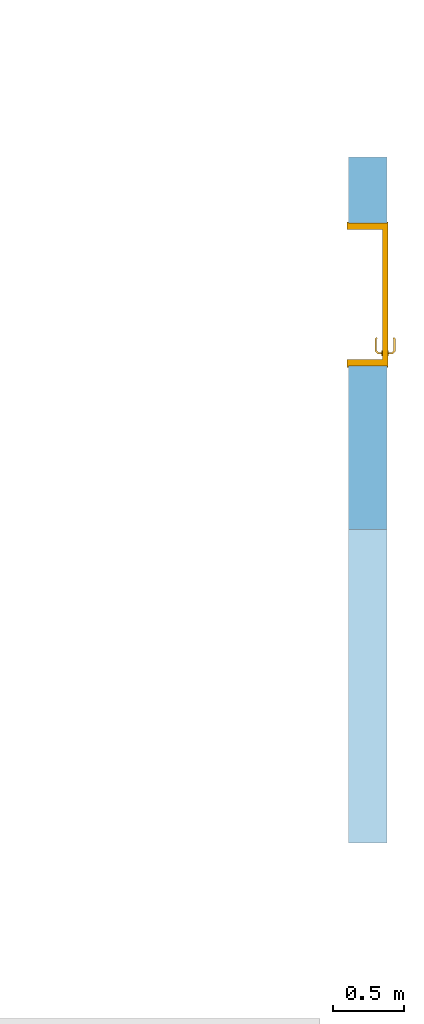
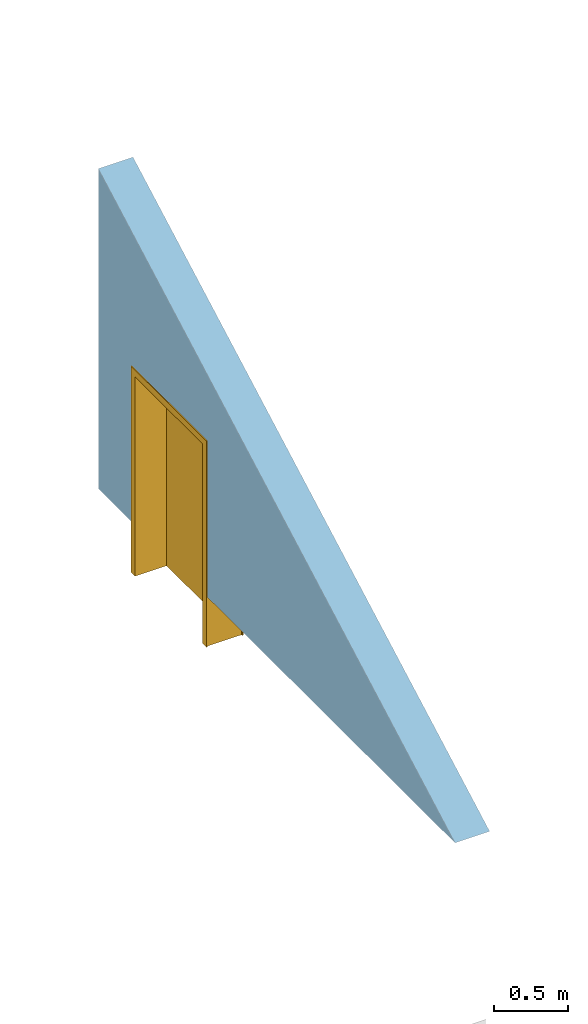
"""IFC2X3 building model written with IfcOpenShell, lengths in centimetres."""

from ifc_helpers import new_model, entity, si_unit, converted_unit, derived_unit, direction, frame, frame_2d, origin, place, context, subcontext, project, spatial, rectangle, extrude, faceted_brep, source, transform, mapped, material, material_list, type_object, type_shapes, element, fill, save


model = new_model("IFC2X3")

# Units and contexts
model_context = context("Model", 3, precision=0.001, world=origin(), true_north=direction((6.12303176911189e-17, 1.0)))
body_context = subcontext(model_context, "Body", "Model", "MODEL_VIEW")
ifc_project = project(units=[si_unit("LENGTHUNIT", "METRE", prefix="CENTI"), si_unit("AREAUNIT", "SQUARE_METRE"), si_unit("VOLUMEUNIT", "CUBIC_METRE"), converted_unit("PLANEANGLEUNIT", "DEGREE", entity("IfcRatioMeasure", 0.0174532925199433), si_unit("PLANEANGLEUNIT", "RADIAN"), dimensions=[0, 0, 0, 0, 0, 0, 0]), si_unit("MASSUNIT", "GRAM", prefix="KILO"), si_unit("TIMEUNIT", "SECOND"), si_unit("FREQUENCYUNIT", "HERTZ"), si_unit("THERMODYNAMICTEMPERATUREUNIT", "DEGREE_CELSIUS"), derived_unit("THERMALTRANSMITTANCEUNIT", [(si_unit("MASSUNIT", "GRAM", prefix="KILO"), 1), (si_unit("THERMODYNAMICTEMPERATUREUNIT", "KELVIN"), -1), (si_unit("TIMEUNIT", "SECOND"), -3)]), derived_unit("VOLUMETRICFLOWRATEUNIT", [(si_unit("LENGTHUNIT", "METRE"), 3), (si_unit("TIMEUNIT", "SECOND"), -1)]), si_unit("ELECTRICCURRENTUNIT", "AMPERE"), si_unit("ELECTRICVOLTAGEUNIT", "VOLT"), si_unit("POWERUNIT", "WATT"), si_unit("FORCEUNIT", "NEWTON", prefix="KILO"), si_unit("ILLUMINANCEUNIT", "LUX"), si_unit("LUMINOUSFLUXUNIT", "LUMEN"), si_unit("LUMINOUSINTENSITYUNIT", "CANDELA"), derived_unit("USERDEFINED", [(si_unit("MASSUNIT", "GRAM", prefix="KILO"), -1), (si_unit("LENGTHUNIT", "METRE"), -2), (si_unit("TIMEUNIT", "SECOND"), 3), (si_unit("LUMINOUSFLUXUNIT", "LUMEN"), 1)]), derived_unit("LINEARVELOCITYUNIT", [(si_unit("LENGTHUNIT", "METRE"), 1), (si_unit("TIMEUNIT", "SECOND"), -1)]), si_unit("PRESSUREUNIT", "PASCAL"), derived_unit("USERDEFINED", [(si_unit("LENGTHUNIT", "METRE"), -2), (si_unit("MASSUNIT", "GRAM", prefix="KILO"), 1), (si_unit("TIMEUNIT", "SECOND"), -2)])], contexts=[model_context])

# Site, building, storey
site_placement = place(None, frame((8.62739174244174, -249.285249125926, 0.0)))
site = spatial("IfcSite", under=ifc_project, at=site_placement, Name="Default", CompositionType="ELEMENT")
building_placement = place(site_placement, origin())
building = spatial("IfcBuilding", under=site, at=building_placement, CompositionType="ELEMENT")
storey_1_placement = place(building_placement, frame((0.0, 0.0, 722.0)))
storey_1 = spatial("IfcBuildingStorey", under=building, at=storey_1_placement, Name="Acrotère E2", CompositionType="ELEMENT", Elevation=722.0)

# Wall, opening
wall_type = type_object("IfcWallType", Name="Mur de base:MET PROJET 4 + ISO 23 + MET 1", PredefinedType="NOTDEFINED")
wall_placement = place(storey_1_placement, frame((3067.40482781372, 4146.47531195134, 133.0), z_axis=(0.0, 0.0, 1.0), x_axis=(0.0, -1.0, 0.0)))
wall = element("IfcWall", 1, at=wall_placement, inside=storey_1, type_object=wall_type, Name="Mur de base:MET PROJET 4 + ISO 23 + MET 1", ObjectType="Mur de base:MET PROJET 4 + ISO 23 + MET 1", context=body_context, shape_type="Brep", body=[
    faceted_brep([(0.0, -13.5, 263.0), (0.0, -13.5, 0.0), (46.2945842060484, -13.4999999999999, 0.0), (46.2945842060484, -13.4999999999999, 127.500000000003), (146.294584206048, -13.4999999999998, 127.500000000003), (146.294584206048, -13.4999999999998, 0.0), (480.39999999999, -13.4999999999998, 0.0), (0.0, 13.4999999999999, 0.0), (0.0, 13.4999999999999, 263.0), (480.39999999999, 13.5000000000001, 0.0), (146.294584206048, 13.5000000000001, 0.0), (146.294584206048, 13.5000000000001, 127.500000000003), (46.2945842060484, 13.5, 127.500000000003), (46.2945842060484, 13.5, 0.0), (0.0, 12.5000000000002, 0.0), (46.2945842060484, 12.5000000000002, 0.0), (146.294584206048, 12.5000000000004, 0.0), (480.39999999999, 12.5000000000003, 0.0)], [[[0, 1, 2, 3, 4, 5, 6]], [[7, 8, 9, 10, 11, 12, 13]], [[1, 0, 8, 7, 14]], [[12, 3, 2, 15, 13]], [[3, 12, 11, 4]], [[4, 11, 10, 16, 5]], [[0, 6, 17, 9, 8]], [[9, 17, 16, 10]], [[17, 6, 5, 16]], [[1, 14, 15, 2]], [[14, 7, 13, 15]]]),
])
opening_placement = place(wall_placement, frame((46.2945842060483, -13.5, -41.0)))
opening = element("IfcOpeningElement", 2, at=opening_placement, cuts=wall, Name="Simple(R)_bois_mu:93 x 165 cm:1", ObjectType="Opening", context=body_context, shape_type="SweptSolid", body=[
    extrude(rectangle(XDim=168.5, YDim=99.9999999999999, at=frame_2d((84.25, 50.0), x_axis=(1.0, 0.0))), frame((0.0, 0.0, 0.0), z_axis=(0.0, 1.0, 0.0), x_axis=(0.0, 0.0, 1.0)), (0.0, 0.0, 1.0), 27.0),
])

# Storey
storey_2_placement = place(building_placement, frame((0.0, 0.0, 814.0)))
storey_2 = spatial("IfcBuildingStorey", under=building, at=storey_2_placement, Name="814", CompositionType="ELEMENT", Elevation=814.0)

# Door
ifc_material_1 = material(Name="Porte - Poignée")
ifc_material_2 = material(Name="Porte - Cadre")
ifc_material_3 = material(Name="Porte - Panneau")
ifc_material_list_1 = material_list([ifc_material_1, ifc_material_2, ifc_material_3])
ifc_material_list_2 = material_list([ifc_material_1, ifc_material_2, ifc_material_3])
door_style = type_object("IfcDoorStyle", Name="93 x 165 cm", ConstructionType="NOTDEFINED", OperationType="SINGLE_SWING_RIGHT", ParameterTakesPrecedence=False, Sizeable=False, material=ifc_material_list_2)
shared_shape = source(origin(), body_context, "Body", "Brep", [
    faceted_brep([(8.79747013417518, 3.69999999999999, 100.778044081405), (8.3999999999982, 3.69999999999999, 100.699999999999), (8.39999999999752, 3.69999999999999, 99.2999999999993), (8.79747013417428, 3.69999999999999, 99.2219559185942), (9.20252986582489, 3.69999999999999, 99.2219559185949), (9.60000000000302, 3.69999999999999, 99.3000000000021), (9.60000000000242, 3.69999999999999, 100.699999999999), (9.2025298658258, 3.69999999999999, 100.778044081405), (9.60000000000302, 5.94852045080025, 99.3000000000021), (9.60000000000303, 5.94852045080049, 100.699999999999), (9.20252986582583, 6.1131579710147, 100.778044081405), (10.5838906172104, 7.49451872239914, 100.778044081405), (10.4161093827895, 7.89957845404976, 100.778044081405), (8.79747013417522, 6.2809392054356, 100.778044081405), (19.5684749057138, 6.84673156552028, 100.778044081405), (19.8548953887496, 7.13315204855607, 100.778044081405), (19.0884689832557, 7.89957845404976, 100.778044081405), (18.9206877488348, 7.49451872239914, 100.778044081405), (8.39999999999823, 6.44557672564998, 100.699999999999), (8.3999999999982, 6.44557672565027, 99.2999999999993), (8.79747013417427, 6.28093920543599, 99.2219559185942), (10.4161093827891, 7.8995784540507, 99.2219559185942), (10.58389061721, 7.49451872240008, 99.2219559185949), (9.20252986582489, 6.11315797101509, 99.2219559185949), (19.8548953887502, 7.1331520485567, 99.2219559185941), (19.5684749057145, 6.84673156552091, 99.2219559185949), (18.9206877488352, 7.49451872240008, 99.2219559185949), (19.088468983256, 7.8995784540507, 99.2219559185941), (10.7485281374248, 7.09704858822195, 99.3000000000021), (10.748528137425, 7.09704858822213, 100.699999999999), (10.2514718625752, 8.29704858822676, 100.699999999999), (10.2514718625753, 8.29704858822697, 99.2999999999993), (14.7522904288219, 7.09704858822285, 99.3000000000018), (18.7560502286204, 7.09704858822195, 99.3000000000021), (18.7560502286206, 7.09704858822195, 100.699999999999), (14.7522891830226, 7.09704858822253, 100.699999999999), (14.7522891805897, 7.71249275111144, 100.787811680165), (19.25310650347, 8.29704858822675, 100.699999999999), (15.2600577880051, 8.29704858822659, 100.699999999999), (19.2531065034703, 8.29704858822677, 99.2999999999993), (14.2445206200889, 8.29704858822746, 99.2999999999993), (14.7522892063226, 7.71249274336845, 99.2121883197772), (19.2874210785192, 6.56567773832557, 99.3000000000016), (20.1359492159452, 7.41420587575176, 99.2999999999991), (20.135949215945, 7.4142058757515, 100.699999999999), (19.287421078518, 6.56567773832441, 100.699999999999)], [[[0, 1, 2, 3, 4, 5, 6, 7]], [[6, 5, 8, 9]], [[9, 10, 7, 6]], [[10, 11, 12, 13, 0, 7]], [[14, 15, 16, 17]], [[13, 18, 1, 0]], [[2, 1, 18, 19]], [[19, 20, 3, 2]], [[20, 21, 22, 23, 4, 3]], [[24, 25, 26, 27]], [[23, 8, 5, 4]], [[9, 8, 28, 29]], [[29, 11, 10, 9]], [[12, 30, 18, 13]], [[19, 18, 30, 31]], [[31, 21, 20, 19]], [[22, 28, 8, 23]], [[29, 28, 32, 33, 34, 35]], [[11, 35, 36]], [[16, 37, 38]], [[30, 12, 38]], [[38, 12, 36]], [[36, 35, 17]], [[17, 16, 36]], [[35, 11, 29]], [[34, 17, 35]], [[11, 36, 12]], [[38, 36, 16]], [[31, 30, 38, 37, 39, 40]], [[40, 41, 21]], [[41, 40, 27]], [[21, 31, 40]], [[39, 27, 40]], [[41, 32, 22]], [[22, 21, 41]], [[26, 32, 41]], [[28, 22, 32]], [[32, 26, 33]], [[26, 41, 27]], [[42, 25, 24, 43, 44, 15, 14, 45]], [[34, 33, 42, 45]], [[45, 14, 17, 34]], [[15, 44, 37, 16]], [[39, 37, 44, 43]], [[43, 24, 27, 39]], [[25, 42, 33, 26]]]),
    faceted_brep([(8.79747013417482, -1.30000000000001, 100.778044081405), (9.20252986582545, -1.30000000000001, 100.778044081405), (9.6000000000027, -1.30000000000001, 100.699999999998), (9.60000000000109, -1.30000000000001, 99.3000000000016), (9.20252986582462, -1.30000000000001, 99.2219559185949), (8.79747013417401, -1.30000000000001, 99.2219559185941), (8.39999999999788, -1.30000000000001, 99.2999999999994), (8.39999999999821, -1.30000000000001, 100.699999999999), (8.39999999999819, -4.06509507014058, 100.699999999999), (8.7974701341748, -3.90045754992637, 100.778044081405), (10.402358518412, -5.50534593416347, 100.778044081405), (10.5701397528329, -5.10028620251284, 100.778044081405), (9.20252986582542, -3.73267631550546, 100.778044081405), (19.852181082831, -4.73891952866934, 100.778044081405), (19.5657605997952, -4.4524990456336, 100.778044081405), (18.9179734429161, -5.10028620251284, 100.778044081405), (19.085754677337, -5.50534593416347, 100.778044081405), (9.60000000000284, -3.56803879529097, 100.699999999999), (9.6000000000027, -3.56803879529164, 99.3000000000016), (9.20252986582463, -3.7326763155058, 99.2219559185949), (10.5701397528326, -5.10028620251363, 99.2219559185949), (10.4023585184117, -5.50534593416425, 99.2219559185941), (8.79747013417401, -3.9004575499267, 99.2219559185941), (19.5657605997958, -4.45249904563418, 99.2219559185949), (19.8521810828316, -4.73891952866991, 99.2219559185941), (19.0857546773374, -5.50534593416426, 99.2219559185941), (18.9179734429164, -5.10028620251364, 99.2219559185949), (8.39999999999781, -4.06509507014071, 99.2999999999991), (10.2377209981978, -5.90281606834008, 100.699999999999), (10.7347772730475, -4.70281606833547, 100.699999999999), (10.7347772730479, -4.70281606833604, 99.3000000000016), (10.2377209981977, -5.90281606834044, 99.2999999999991), (14.2307697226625, -5.90281606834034, 100.699999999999), (14.7440566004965, -5.31828027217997, 100.787811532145), (19.2503921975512, -5.90281606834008, 100.699999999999), (14.7440565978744, -4.70281606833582, 100.699999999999), (18.7533359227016, -4.70281606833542, 100.699999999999), (18.7533359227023, -4.70281606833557, 99.3000000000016), (14.7440563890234, -4.70281606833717, 99.3000000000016), (14.744056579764, -5.31828027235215, 99.2121884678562), (19.2503921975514, -5.90281606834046, 99.2999999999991), (15.2573433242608, -5.90281606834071, 99.2999999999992), (19.2847067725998, -4.1714452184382, 100.699999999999), (20.1332349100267, -5.01997335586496, 100.699999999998), (20.1332349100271, -5.01997335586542, 99.2999999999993), (19.2847067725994, -4.17144521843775, 99.3000000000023)], [[[0, 1, 2, 3, 4, 5, 6, 7]], [[8, 9, 0, 7]], [[9, 10, 11, 12, 1, 0]], [[13, 14, 15, 16]], [[12, 17, 2, 1]], [[3, 2, 17, 18]], [[18, 19, 4, 3]], [[19, 20, 21, 22, 5, 4]], [[23, 24, 25, 26]], [[22, 27, 6, 5]], [[7, 6, 27, 8]], [[28, 10, 9, 8]], [[11, 29, 17, 12]], [[18, 17, 29, 30]], [[30, 20, 19, 18]], [[21, 31, 27, 22]], [[8, 27, 31, 28]], [[32, 33, 10]], [[33, 32, 16]], [[10, 28, 32]], [[34, 16, 32]], [[33, 35, 11]], [[11, 10, 33]], [[15, 35, 33]], [[29, 11, 35]], [[35, 15, 36]], [[15, 33, 16]], [[30, 29, 35, 36, 37, 38]], [[20, 38, 39]], [[25, 40, 41]], [[31, 21, 41]], [[41, 21, 39]], [[39, 38, 26]], [[26, 25, 39]], [[38, 20, 30]], [[37, 26, 38]], [[20, 39, 21]], [[41, 39, 25]], [[28, 31, 41, 40, 34, 32]], [[42, 14, 13, 43, 44, 24, 23, 45]], [[43, 13, 16, 34]], [[14, 42, 36, 15]], [[37, 36, 42, 45]], [[45, 23, 26, 37]], [[24, 44, 40, 25]], [[34, 40, 44, 43]]]),
    faceted_brep([(10.03527618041, 3.19999999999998, 86.6003983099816), (11.0, 3.19999999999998, 87.0), (11.0, 3.19999999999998, 108.0), (10.03527618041, 3.19999999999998, 108.399601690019), (9.0, 3.19999999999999, 108.535898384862), (7.96472381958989, 3.19999999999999, 108.399601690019), (7.0, 3.19999999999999, 108.0), (7.0, 3.19999999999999, 87.0), (7.96472381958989, 3.19999999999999, 86.6003983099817), (9.0, 3.19999999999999, 86.4641016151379), (10.03527618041, 3.69999999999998, 108.399601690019), (11.0, 3.69999999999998, 108.0), (11.0, 3.69999999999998, 87.0), (10.03527618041, 3.69999999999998, 86.6003983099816), (9.0, 3.69999999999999, 86.4641016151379), (7.96472381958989, 3.69999999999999, 86.6003983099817), (7.0, 3.69999999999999, 87.0), (7.0, 3.69999999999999, 108.0), (7.96472381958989, 3.69999999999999, 108.399601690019), (9.0, 3.69999999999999, 108.535898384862)], [[[0, 1, 2, 3, 4, 5, 6, 7, 8, 9]], [[10, 11, 12, 13, 14, 15, 16, 17, 18, 19]], [[11, 10, 3, 2]], [[3, 10, 19, 4]], [[19, 18, 5, 4]], [[18, 17, 6, 5]], [[7, 6, 17, 16]], [[16, 15, 8, 7]], [[8, 15, 14, 9]], [[14, 13, 0, 9]], [[13, 12, 1, 0]], [[2, 1, 12, 11]]]),
    faceted_brep([(10.03527618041, -1.30000000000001, 86.6003983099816), (11.0, -1.30000000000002, 87.0), (11.0, -1.30000000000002, 108.0), (10.03527618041, -1.30000000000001, 108.399601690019), (9.0, -1.30000000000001, 108.535898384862), (7.9647238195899, -1.30000000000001, 108.399601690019), (7.0, -1.3, 108.0), (7.0, -1.3, 87.0), (7.96472381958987, -1.30000000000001, 86.6003983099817), (9.0, -1.30000000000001, 86.4641016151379), (10.03527618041, -0.800000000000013, 108.399601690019), (11.0, -0.800000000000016, 108.0), (11.0, -0.800000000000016, 87.0), (10.03527618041, -0.800000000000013, 86.6003983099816), (9.0, -0.800000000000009, 86.4641016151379), (7.96472381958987, -0.800000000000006, 86.6003983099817), (7.0, -0.800000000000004, 87.0), (7.0, -0.800000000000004, 108.0), (7.9647238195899, -0.800000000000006, 108.399601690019), (9.0, -0.800000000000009, 108.535898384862)], [[[0, 1, 2, 3, 4, 5, 6, 7, 8, 9]], [[10, 11, 12, 13, 14, 15, 16, 17, 18, 19]], [[16, 15, 8, 7]], [[8, 15, 14, 9]], [[14, 13, 0, 9]], [[13, 12, 1, 0]], [[2, 1, 12, 11]], [[11, 10, 3, 2]], [[3, 10, 19, 4]], [[19, 18, 5, 4]], [[18, 17, 6, 5]], [[7, 6, 17, 16]]]),
    faceted_brep([(0.0, 0.0, 0.0), (0.0, 27.0, 0.0), (-1.0, 27.0, 0.0), (-1.0, 27.8000000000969, 0.0), (4.49999999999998, 27.8000000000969, 0.0), (4.49999999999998, 3.20000000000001, 0.0), (3.49999999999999, 3.20000000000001, 0.0), (3.49999999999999, -0.799999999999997, 0.0), (-1.0, -0.799999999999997, 0.0), (-1.0, 0.0, 0.0), (0.0, 0.0, 168.5), (0.0, 27.0, 168.5), (100.0, 27.0, 168.5), (100.0, 27.0, 0.0), (101.0, 27.0, 0.0), (101.0, 27.0, 169.5), (-1.0, 27.0, 169.5), (-1.0, 27.8000000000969, 169.5), (101.0, 27.8000000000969, 169.5), (101.0, 27.8000000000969, 0.0), (95.5, 27.8000000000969, 0.0), (95.5, 27.8000000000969, 164.0), (4.49999999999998, 27.8000000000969, 164.0), (4.49999999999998, 3.20000000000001, 164.0), (95.5, 3.20000000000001, 164.0), (95.5, 3.20000000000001, 0.0), (96.5, 3.20000000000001, 0.0), (96.5, 3.20000000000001, 165.0), (3.49999999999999, 3.20000000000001, 165.0), (3.49999999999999, -0.799999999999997, 165.0), (96.5, -0.799999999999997, 165.0), (96.5, -0.799999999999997, 0.0), (101.0, -0.799999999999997, 0.0), (101.0, -0.799999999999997, 169.5), (-1.0, -0.799999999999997, 169.5), (-1.0, 0.0, 169.5), (101.0, 0.0, 169.5), (101.0, 0.0, 0.0), (100.0, 0.0, 0.0), (100.0, 0.0, 168.5)], [[[0, 1, 2, 3, 4, 5, 6, 7, 8, 9]], [[1, 0, 10, 11]], [[2, 1, 11, 12, 13, 14, 15, 16]], [[3, 2, 16, 17]], [[4, 3, 17, 18, 19, 20, 21, 22]], [[5, 4, 22, 23]], [[6, 5, 23, 24, 25, 26, 27, 28]], [[7, 6, 28, 29]], [[8, 7, 29, 30, 31, 32, 33, 34]], [[9, 8, 34, 35]], [[0, 9, 35, 36, 37, 38, 39, 10]], [[12, 39, 38, 13]], [[38, 37, 32, 31, 26, 25, 20, 19, 14, 13]], [[18, 15, 14, 19]], [[24, 21, 20, 25]], [[30, 27, 26, 31]], [[36, 33, 32, 37]], [[11, 10, 39, 12]], [[17, 16, 15, 18]], [[23, 22, 21, 24]], [[29, 28, 27, 30]], [[35, 34, 33, 36]]]),
    faceted_brep([(3.49999999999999, -0.799999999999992, 165.0), (3.49999999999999, -0.799999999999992, 0.0), (96.5, -0.799999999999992, 0.0), (96.5, -0.799999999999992, 165.0), (3.49999999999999, 3.20000000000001, 165.0), (96.5, 3.20000000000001, 165.0), (96.5, 3.20000000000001, 0.0), (3.49999999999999, 3.20000000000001, 0.0)], [[[0, 1, 2, 3]], [[4, 5, 6, 7]], [[1, 0, 4, 7]], [[2, 1, 7, 6]], [[3, 2, 6, 5]], [[0, 3, 5, 4]]]),
])
type_shapes(door_style, [shared_shape])
door_placement = place(opening_placement, frame((100.0, 27.0, 0.0), z_axis=(0.0, 0.0, 1.0), x_axis=(-1.0, 0.0, 0.0)))
door = element("IfcDoor", 3, at=door_placement, inside=storey_2, type_object=door_style, material=ifc_material_list_1, Name="Simple(R)_bois_mu:93 x 165 cm", ObjectType="93 x 165 cm", OverallHeight=168.5, OverallWidth=99.9999999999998, context=body_context, shape_type="MappedRepresentation", body=[
    mapped(shared_shape, transform((0.0, 0.0, 0.0), scale=1.0)),
])

fill(opening, door)

save(model, "model.ifc")
